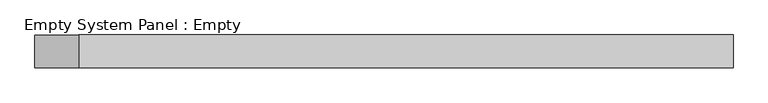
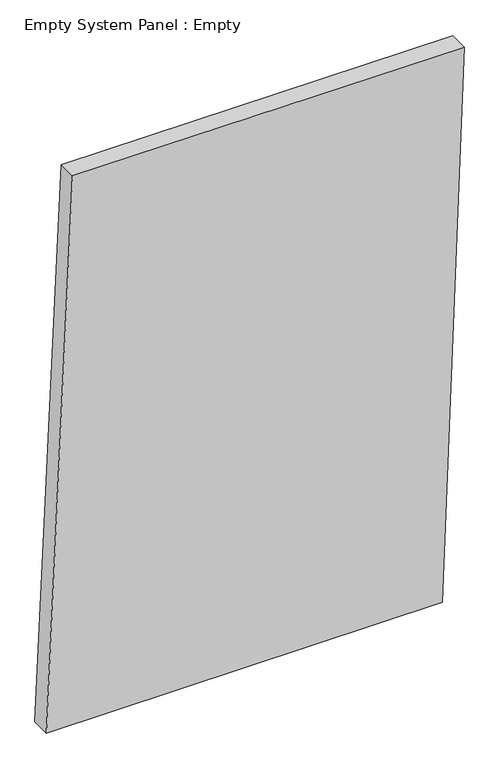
"""IFC4 building model written with IfcOpenShell, lengths in millimetres: plate geometry, Empty System Panel : Empty."""

from ifc_helpers import new_model, si_unit, frame, origin, place, context, project, spatial, polyline, outline, extrude, source, transform, mapped, element, save


def empty_system_panel_empty_32c5dcfe(model_context):
    return source(origin(), model_context, "Body", "SweptSolid", [
        extrude(outline(polyline([(0.0, -1078.0743232), (0.0, 964.7144904), (2988.8320057, 1078.0743232), (2993.2794486, -943.1728082), (0.0, -1078.0743232)])), frame((0.0, -50.8, 0.0), z_axis=(0.0, 1.0, 0.0), x_axis=(0.0, 0.0, 1.0)), (0.0, 0.0, 1.0), 101.6),
    ])


if __name__ == "__main__":
    model = new_model("IFC4")
    model_context = context("Model", 3, world=origin())
    ifc_project = project(units=[si_unit("LENGTHUNIT", "METRE", prefix="MILLI")], contexts=[model_context])
    site = spatial("IfcSite", under=ifc_project)
    building = spatial("IfcBuilding", under=site)
    placement = place(None, origin())
    empty_system_panel_empty_shape = empty_system_panel_empty_32c5dcfe(model_context)
    element("IfcPlate", 1, ObjectType="Empty System Panel : Empty", at=placement, inside=building, context=model_context, shape_type="MappedRepresentation", body=[
        mapped(empty_system_panel_empty_shape, transform((0.0, 0.0, 0.0), x_axis=(1.0, 0.0, 0.0), y_axis=(0.0, 1.0, 0.0), z_axis=(0.0, 0.0, 1.0))),
    ])
    save(model, "model.ifc")
